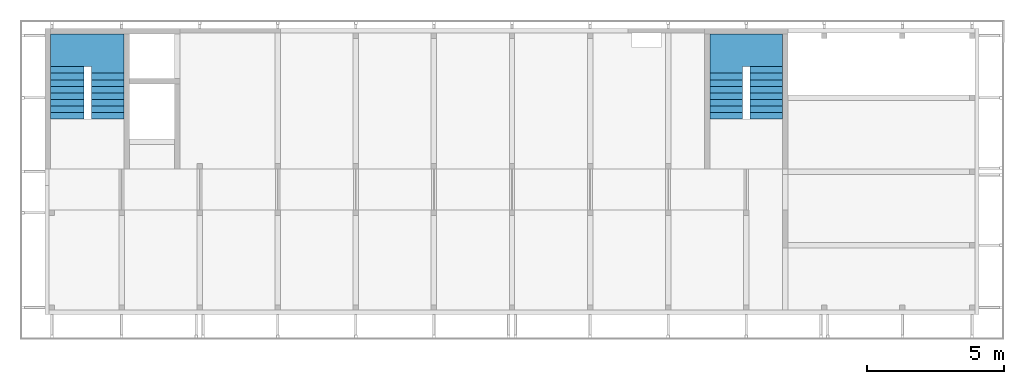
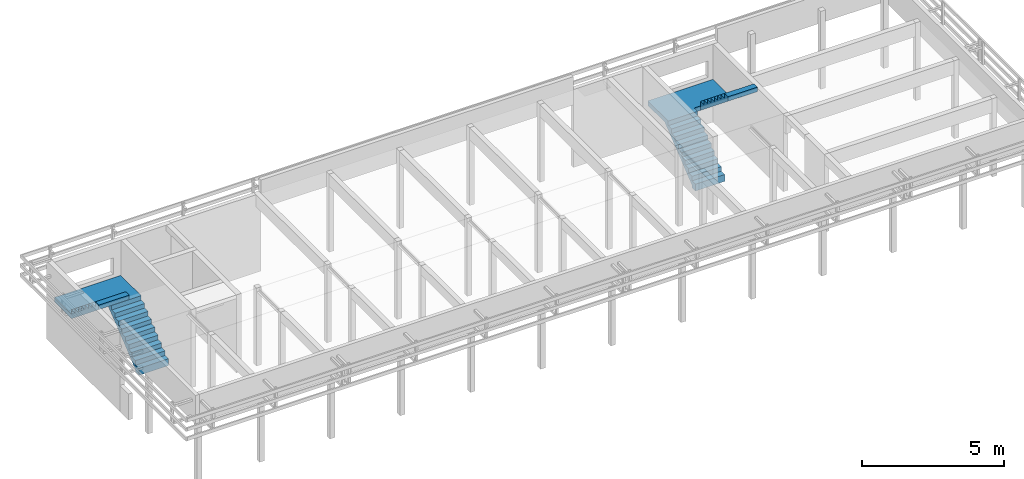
# One storey, part 44 of 44: 2 stairs.
"""IFC4 building model written with IfcOpenShell, lengths in metres."""

from ifc_helpers import new_model, entity, si_unit, converted_unit, derived_unit, frame, origin, place, context, subcontext, project, spatial, faceted_brep, material, element, save


model = new_model("IFC4")

# Units and contexts
model_context = context("Model", 3, precision=1e-05, world=origin())
plan_context = context("Plan", 2, precision=1e-05, world=origin())
body_context = subcontext(model_context, "Body", "Model", "MODEL_VIEW")
ifc_project = project(units=[si_unit("LENGTHUNIT", "METRE"), si_unit("AREAUNIT", "SQUARE_METRE"), si_unit("VOLUMEUNIT", "CUBIC_METRE"), si_unit("MASSUNIT", "GRAM", prefix="KILO"), converted_unit("PLANEANGLEUNIT", "DEGREE", entity("IfcPlaneAngleMeasure", 0.0174532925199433), si_unit("PLANEANGLEUNIT", "RADIAN"), dimensions=[0, 0, 0, 0, 0, 0, 0]), derived_unit("THERMALTRANSMITTANCEUNIT", [(si_unit("POWERUNIT", "WATT"), 1), (si_unit("THERMODYNAMICTEMPERATUREUNIT", "KELVIN"), -1), (si_unit("LENGTHUNIT", "METRE"), -2)]), derived_unit("VOLUMETRICFLOWRATEUNIT", [(si_unit("LENGTHUNIT", "METRE"), 3), (converted_unit("TIMEUNIT", "hour", entity("IfcTimeMeasure", 3600.0), si_unit("TIMEUNIT", "SECOND"), dimensions=[0, 0, 1, 0, 0, 0, 0]), -1), (si_unit("LENGTHUNIT", "METRE"), -1)])], contexts=[model_context, plan_context])

# Site, building, storey
site_placement = place(None, origin())
site = spatial("IfcSite", under=ifc_project, at=site_placement, Name="Site", CompositionType="ELEMENT")
building_placement = place(site_placement, origin())
building = spatial("IfcBuilding", under=site, at=building_placement, Name="Admin", CompositionType="ELEMENT")
storey_placement = place(building_placement, frame((0.0, 0.0, 3.25)))
storey = spatial("IfcBuildingStorey", under=building, at=storey_placement, Name="01-Etage1", CompositionType="ELEMENT", Elevation=3.25)

# Stairs
ifc_material_1 = material(Name="C30/37")
stair_1_placement = place(storey_placement, frame((48.3598001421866, 18.7894493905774, 0.0)))
element("IfcStair", 1, at=stair_1_placement, inside=storey, material=ifc_material_1, Name="Escalier Préfab.", PredefinedType="NOTDEFINED", context=body_context, shape_type="Brep", body=[
    faceted_brep([(2.66, 3.36, 1.6541355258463), (0.0, 3.36, 1.6541355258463), (0.0, 2.15989999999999, 1.6541355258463), (1.2, 2.15989999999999, 1.6541355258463), (1.2, 2.16, 1.6541355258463), (1.46, 2.16, 1.6541355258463), (1.46, 2.1599, 1.6541355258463), (2.66, 2.1599, 1.6541355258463), (2.66, 3.36, 1.84705882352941), (2.66, 2.1599, 1.84705882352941), (1.46, 2.1599, 1.84705882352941), (1.46, 2.16, 1.84705882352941), (1.2, 2.16, 1.84705882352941), (1.2, 1.91991111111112, 1.84705882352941), (0.0, 1.91991111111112, 1.84705882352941), (0.0, 3.36, 1.84705882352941), (0.0, 0.239988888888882, 0.488235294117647), (0.0, 0.479977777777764, 0.488235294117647), (1.2, 0.479977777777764, 0.488235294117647), (1.2, 0.239988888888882, 0.488235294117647), (1.2, 0.239988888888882, 0.294117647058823), (0.0, 0.239988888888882, 0.294117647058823), (0.0, 0.479977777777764, 0.68235294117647), (1.2, 0.479977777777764, 0.68235294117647), (0.0, 0.719966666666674, 0.68235294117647), (1.2, 0.719966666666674, 0.68235294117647), (0.0, 0.719966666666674, 0.876470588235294), (1.2, 0.719966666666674, 0.876470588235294), (0.0, 0.959955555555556, 0.876470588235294), (1.2, 0.959955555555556, 0.876470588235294), (0.0, 0.959955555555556, 1.07058823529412), (1.2, 0.959955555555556, 1.07058823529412), (0.0, 1.19994444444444, 1.07058823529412), (1.2, 1.19994444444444, 1.07058823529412), (0.0, 1.19994444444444, 1.26470588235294), (1.2, 1.19994444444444, 1.26470588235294), (0.0, 1.43993333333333, 1.26470588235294), (1.2, 1.43993333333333, 1.26470588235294), (0.0, 1.43993333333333, 1.45882352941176), (1.2, 1.43993333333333, 1.45882352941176), (0.0, 1.67992222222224, 1.45882352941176), (1.2, 1.67992222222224, 1.45882352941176), (0.0, 1.67992222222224, 1.65294117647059), (1.2, 1.67992222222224, 1.65294117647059), (0.0, 1.91991111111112, 1.65294117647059), (1.2, 1.91991111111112, 1.65294117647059), (0.0, 0.239988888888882, 0.101194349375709), (1.2, 0.239988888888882, 0.101194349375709), (2.66, 2.1599, 2.04117647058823), (1.46, 2.1599, 2.04117647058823), (2.66, 1.91991111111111, 2.04117647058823), (1.46, 1.91991111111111, 2.04117647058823), (2.66, 1.91991111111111, 2.23529411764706), (1.46, 1.91991111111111, 2.23529411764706), (2.66, 1.6799222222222, 2.23529411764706), (1.46, 1.6799222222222, 2.23529411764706), (2.66, 1.6799222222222, 2.42941176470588), (1.46, 1.6799222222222, 2.42941176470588), (2.66, 1.43993333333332, 2.42941176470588), (1.46, 1.43993333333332, 2.42941176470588), (2.66, 1.43993333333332, 2.6235294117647), (1.46, 1.43993333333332, 2.6235294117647), (2.66, 1.19994444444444, 2.6235294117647), (1.46, 1.19994444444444, 2.6235294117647), (2.66, 1.19994444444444, 2.81764705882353), (1.46, 1.19994444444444, 2.81764705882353), (2.66, 0.959955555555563, 2.81764705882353), (1.46, 0.959955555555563, 2.81764705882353), (2.66, 0.959955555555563, 3.01176470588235), (1.46, 0.959955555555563, 3.01176470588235), (2.66, 0.719966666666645, 3.01176470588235), (1.46, 0.719966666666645, 3.01176470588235), (2.66, 0.719966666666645, 3.20588235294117), (1.46, 0.719966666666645, 3.20588235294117), (2.66, 0.479977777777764, 3.20588235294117), (1.46, 0.479977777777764, 3.20588235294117), (2.66, 0.479977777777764, 3.4), (1.46, 0.479977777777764, 3.4), (2.66, 0.239988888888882, 3.20707670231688), (2.66, 0.239988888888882, 3.4), (1.46, 0.239988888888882, 3.4), (1.46, 0.239988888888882, 3.20707670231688), (0.0, 0.0, 0.294117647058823), (1.2, 0.0, 0.294117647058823), (0.0, 0.0, 0.0), (1.2, 0.0, 0.0), (0.0, 0.239988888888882, 0.0), (1.2, 0.239988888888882, 0.0)], [[[0, 1, 2, 3, 4, 5, 6, 7]], [[8, 9, 10, 11, 12, 13, 14, 15]], [[0, 8, 15, 1]], [[5, 4, 12, 11]], [[16, 17, 18, 19]], [[16, 19, 20, 21]], [[22, 23, 18, 17]], [[22, 24, 25, 23]], [[26, 27, 25, 24]], [[26, 28, 29, 27]], [[30, 31, 29, 28]], [[30, 32, 33, 31]], [[34, 35, 33, 32]], [[34, 36, 37, 35]], [[38, 39, 37, 36]], [[38, 40, 41, 39]], [[42, 43, 41, 40]], [[42, 44, 45, 43]], [[14, 13, 45, 44]], [[3, 2, 46, 47]], [[48, 49, 10, 9]], [[48, 50, 51, 49]], [[52, 53, 51, 50]], [[52, 54, 55, 53]], [[56, 57, 55, 54]], [[56, 58, 59, 57]], [[60, 61, 59, 58]], [[60, 62, 63, 61]], [[64, 65, 63, 62]], [[64, 66, 67, 65]], [[68, 69, 67, 66]], [[68, 70, 71, 69]], [[72, 73, 71, 70]], [[72, 74, 75, 73]], [[76, 77, 75, 74]], [[78, 79, 76, 74, 72, 70, 68, 66, 64, 62, 60, 58, 56, 54, 52, 50, 48, 9, 8, 0, 7]], [[6, 5, 11, 10, 49, 51, 53, 55, 57, 59, 61, 63, 65, 67, 69, 71, 73, 75, 77, 80, 81]], [[76, 79, 80, 77]], [[81, 78, 7, 6]], [[81, 80, 79, 78]], [[82, 21, 20, 83]], [[84, 82, 83, 85]], [[86, 87, 47, 46]], [[86, 46, 2, 1, 15, 14, 44, 42, 40, 38, 36, 34, 32, 30, 28, 26, 24, 22, 17, 16, 21, 82, 84]], [[85, 83, 20, 19, 18, 23, 25, 27, 29, 31, 33, 35, 37, 39, 41, 43, 45, 13, 12, 4, 3, 47, 87]], [[85, 87, 86, 84]]], orient=[[False], [False], [False], [False], [False], [False], [False], [False], [False], [False], [False], [False], [False], [False], [False], [False], [False], [False], [False], [False], [False], [False], [False], [False], [False], [False], [False], [False], [False], [False], [False], [False], [False], [False], [False], [False], [False], [False], [False], [False], [False], [False], [False], [False], [False], [False]]),
])
ifc_material_2 = material(Name="C30/37")
stair_2_placement = place(storey_placement, frame((24.1998005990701, 18.7894421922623, 0.0)))
element("IfcStair", 2, at=stair_2_placement, inside=storey, material=ifc_material_2, Name="Escalier Préfab.", PredefinedType="NOTDEFINED", context=body_context, shape_type="Brep", body=[
    faceted_brep([(0.0, 3.36000719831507, 1.6541355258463), (0.0, 2.15990719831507, 1.6541355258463), (1.24002048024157, 2.15990696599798, 1.6541355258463), (1.24002048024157, 2.16000696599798, 1.6541355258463), (1.50002002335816, 2.16000696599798, 1.6541355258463), (2.70002895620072, 2.1599, 1.6541355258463), (2.70002895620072, 3.36, 1.6541355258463), (0.0, 3.36000719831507, 1.84705882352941), (2.70002895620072, 3.36, 1.84705882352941), (2.70002895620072, 1.91991111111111, 1.84705882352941), (1.50002002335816, 1.91991807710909, 1.84705882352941), (1.50002002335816, 2.16000696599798, 1.84705882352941), (1.24002048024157, 2.16000696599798, 1.84705882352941), (1.24002048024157, 2.15990696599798, 1.84705882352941), (0.0, 2.15990719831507, 1.84705882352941), (2.70002895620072, 0.239988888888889, 0.488235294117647), (1.50002002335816, 0.239995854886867, 0.488235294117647), (1.50002002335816, 0.479984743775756, 0.488235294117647), (2.70002895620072, 0.479977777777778, 0.488235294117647), (2.70002895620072, 0.239988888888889, 0.294117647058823), (1.50002002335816, 0.239995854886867, 0.294117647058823), (2.70002895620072, 0.479977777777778, 0.68235294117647), (1.50002002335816, 0.479984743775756, 0.68235294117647), (1.50002002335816, 0.719973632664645, 0.68235294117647), (2.70002895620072, 0.719966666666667, 0.68235294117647), (2.70002895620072, 0.719966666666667, 0.876470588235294), (1.50002002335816, 0.719973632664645, 0.876470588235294), (1.50002002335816, 0.959962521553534, 0.876470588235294), (2.70002895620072, 0.959955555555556, 0.876470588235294), (2.70002895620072, 0.959955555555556, 1.07058823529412), (1.50002002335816, 0.959962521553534, 1.07058823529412), (1.50002002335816, 1.19995141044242, 1.07058823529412), (2.70002895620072, 1.19994444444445, 1.07058823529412), (2.70002895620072, 1.19994444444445, 1.26470588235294), (1.50002002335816, 1.19995141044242, 1.26470588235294), (1.50002002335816, 1.43994029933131, 1.26470588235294), (2.70002895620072, 1.43993333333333, 1.26470588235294), (2.70002895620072, 1.43993333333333, 1.45882352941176), (1.50002002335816, 1.43994029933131, 1.45882352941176), (1.50002002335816, 1.6799291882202, 1.45882352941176), (2.70002895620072, 1.67992222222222, 1.45882352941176), (2.70002895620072, 1.67992222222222, 1.65294117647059), (1.50002002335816, 1.6799291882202, 1.65294117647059), (1.50002002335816, 1.91991807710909, 1.65294117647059), (2.70002895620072, 1.91991111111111, 1.65294117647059), (1.50002002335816, 1.91991807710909, 1.46001787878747), (1.50002002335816, 0.239995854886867, 0.101194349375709), (2.70002895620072, 0.239988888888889, 0.101194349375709), (2.70002895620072, 1.91991111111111, 1.46001787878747), (0.0, 2.15990719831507, 2.04117647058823), (1.24002048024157, 2.15990696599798, 2.04117647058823), (1.24002048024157, 1.91991807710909, 2.04117647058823), (0.0, 1.91991830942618, 2.04117647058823), (0.0, 1.91991830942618, 2.23529411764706), (1.24002048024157, 1.91991807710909, 2.23529411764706), (1.24002048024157, 1.6799291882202, 2.23529411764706), (0.0, 1.67992942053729, 2.23529411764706), (0.0, 1.67992942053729, 2.42941176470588), (1.24002048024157, 1.6799291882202, 2.42941176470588), (1.24002048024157, 1.43994029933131, 2.42941176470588), (0.0, 1.4399405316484, 2.42941176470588), (0.0, 1.4399405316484, 2.6235294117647), (1.24002048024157, 1.43994029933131, 2.6235294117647), (1.24002048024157, 1.19995141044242, 2.6235294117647), (0.0, 1.19995164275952, 2.6235294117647), (0.0, 1.19995164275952, 2.81764705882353), (1.24002048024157, 1.19995141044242, 2.81764705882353), (1.24002048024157, 0.959962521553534, 2.81764705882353), (0.0, 0.959962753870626, 2.81764705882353), (0.0, 0.959962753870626, 3.01176470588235), (1.24002048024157, 0.959962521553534, 3.01176470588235), (1.24002048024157, 0.719973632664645, 3.01176470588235), (0.0, 0.719973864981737, 3.01176470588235), (0.0, 0.719973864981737, 3.20588235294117), (1.24002048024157, 0.719973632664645, 3.20588235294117), (1.24002048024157, 0.479984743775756, 3.20588235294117), (0.0, 0.479984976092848, 3.20588235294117), (0.0, 0.479984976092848, 3.4), (1.24002048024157, 0.479984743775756, 3.4), (0.0, 0.239996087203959, 3.20707670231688), (0.0, 0.239996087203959, 3.4), (1.24002048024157, 0.239995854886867, 3.20707670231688), (1.24002048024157, 0.239995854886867, 3.4), (2.70002895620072, 0.0, 0.294117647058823), (1.50002002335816, 6.96599797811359e-06, 0.294117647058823), (2.70002895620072, 0.0, 0.0), (1.50002002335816, 6.96599797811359e-06, 0.0), (2.70002895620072, 0.239988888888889, 0.0), (1.50002002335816, 0.239995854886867, 0.0)], [[[0, 1, 2, 3, 4, 5, 6]], [[7, 8, 9, 10, 11, 12, 13, 14]], [[0, 6, 8, 7]], [[3, 12, 11, 4]], [[15, 16, 17, 18]], [[15, 19, 20, 16]], [[21, 18, 17, 22]], [[21, 22, 23, 24]], [[25, 24, 23, 26]], [[25, 26, 27, 28]], [[29, 28, 27, 30]], [[29, 30, 31, 32]], [[33, 32, 31, 34]], [[33, 34, 35, 36]], [[37, 36, 35, 38]], [[37, 38, 39, 40]], [[41, 40, 39, 42]], [[41, 42, 43, 44]], [[45, 46, 47, 48]], [[9, 44, 43, 10]], [[4, 48, 5]], [[45, 48, 4]], [[49, 14, 13, 50]], [[49, 50, 51, 52]], [[53, 52, 51, 54]], [[53, 54, 55, 56]], [[57, 56, 55, 58]], [[57, 58, 59, 60]], [[61, 60, 59, 62]], [[61, 62, 63, 64]], [[65, 64, 63, 66]], [[65, 66, 67, 68]], [[69, 68, 67, 70]], [[69, 70, 71, 72]], [[73, 72, 71, 74]], [[73, 74, 75, 76]], [[77, 76, 75, 78]], [[79, 1, 0, 7, 14, 49, 52, 53, 56, 57, 60, 61, 64, 65, 68, 69, 72, 73, 76, 77, 80]], [[2, 81, 82, 78, 75, 74, 71, 70, 67, 66, 63, 62, 59, 58, 55, 54, 51, 50, 13, 12, 3]], [[77, 78, 82, 80]], [[81, 2, 1, 79]], [[81, 79, 80, 82]], [[83, 84, 20, 19]], [[85, 86, 84, 83]], [[87, 47, 46, 88]], [[87, 85, 83, 19, 15, 18, 21, 24, 25, 28, 29, 32, 33, 36, 37, 40, 41, 44, 9, 8, 6, 5, 48, 47]], [[86, 88, 46, 45, 4, 11, 10, 43, 42, 39, 38, 35, 34, 31, 30, 27, 26, 23, 22, 17, 16, 20, 84]], [[86, 85, 87, 88]]], orient=[[False], [False], [False], [False], [False], [False], [False], [False], [False], [False], [False], [False], [False], [False], [False], [False], [False], [False], [False], [False], [False], [False], [False], [False], [False], [False], [False], [False], [False], [False], [False], [False], [False], [False], [False], [False], [False], [False], [False], [False], [False], [False], [False], [False], [False], [False], [False], [False]]),
])

save(model, "model.ifc")
